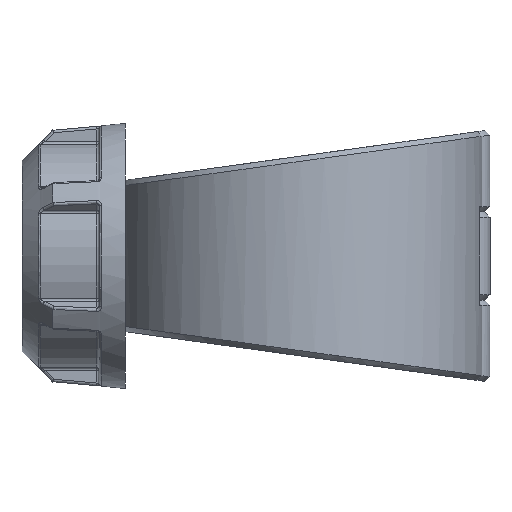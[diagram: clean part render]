
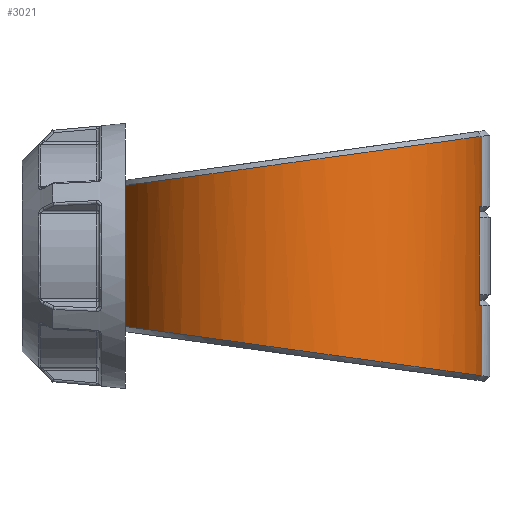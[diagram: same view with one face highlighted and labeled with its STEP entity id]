
A CAD part, left-side view. The second image highlights one B-rep face of the part: STEP entity #3021.
In plain terms, the highlighted cylindrical face has radius 70.5 mm (diameter 141 mm), a partial arc.
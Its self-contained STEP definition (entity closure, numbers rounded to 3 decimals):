
#212=FACE_OUTER_BOUND('',#416,.T.);
#416=EDGE_LOOP('',(#2055,#2056,#2057,#2058,#2059,#2060,#2061,#2062,#2063,
#2064,#2065,#2066));
#623=CIRCLE('',#3251,70.5);
#626=CIRCLE('',#3256,70.5);
#805=B_SPLINE_CURVE_WITH_KNOTS('',3,(#4518,#4519,#4520,#4521),
 .UNSPECIFIED.,.F.,.F.,(4,4),(-0.002,0.),.UNSPECIFIED.);
#806=B_SPLINE_CURVE_WITH_KNOTS('',3,(#4523,#4524,#4525,#4526),
 .UNSPECIFIED.,.F.,.F.,(4,4),(-3.043,-3.043),
 .UNSPECIFIED.);
#807=B_SPLINE_CURVE_WITH_KNOTS('',3,(#4527,#4528,#4529,#4530,#4531,#4532,
#4533,#4534,#4535,#4536),.UNSPECIFIED.,.F.,.F.,(4,1,1,1,1,1,1,4),(0.316,
0.619,1.025,1.431,1.837,2.243,
2.65,3.043),.UNSPECIFIED.);
#808=B_SPLINE_CURVE_WITH_KNOTS('',3,(#4538,#4539,#4540,#4541,#4542,#4543,
#4544,#4545,#4546,#4547),.UNSPECIFIED.,.F.,.F.,(4,1,1,1,1,1,1,4),(-3.043,
-2.65,-2.243,-1.837,-1.431,
-1.025,-0.619,-0.316),.UNSPECIFIED.);
#809=B_SPLINE_CURVE_WITH_KNOTS('',3,(#4549,#4550,#4551,#4552),
 .UNSPECIFIED.,.F.,.F.,(4,4),(3.043,3.043),
 .UNSPECIFIED.);
#810=B_SPLINE_CURVE_WITH_KNOTS('',3,(#4554,#4555,#4556,#4557),
 .UNSPECIFIED.,.F.,.F.,(4,4),(-0.397,-0.395),
 .UNSPECIFIED.);
#972=LINE('',#4394,#1093);
#979=LINE('',#4452,#1100);
#985=LINE('',#4516,#1106);
#986=LINE('',#4558,#1107);
#1093=VECTOR('',#3575,10.);
#1100=VECTOR('',#3592,10.);
#1106=VECTOR('',#3638,10.);
#1107=VECTOR('',#3639,10.);
#1216=VERTEX_POINT('',#4376);
#1217=VERTEX_POINT('',#4393);
#1229=VERTEX_POINT('',#4446);
#1230=VERTEX_POINT('',#4451);
#1236=VERTEX_POINT('',#4472);
#1239=VERTEX_POINT('',#4493);
#1243=VERTEX_POINT('',#4515);
#1244=VERTEX_POINT('',#4517);
#1245=VERTEX_POINT('',#4522);
#1246=VERTEX_POINT('',#4537);
#1247=VERTEX_POINT('',#4548);
#1248=VERTEX_POINT('',#4553);
#1510=EDGE_CURVE('',#1216,#1217,#972,.T.);
#1524=EDGE_CURVE('',#1229,#1230,#979,.T.);
#1537=EDGE_CURVE('',#1236,#1229,#623,.T.);
#1542=EDGE_CURVE('',#1230,#1239,#626,.T.);
#1548=EDGE_CURVE('',#1243,#1236,#985,.T.);
#1549=EDGE_CURVE('',#1244,#1243,#805,.T.);
#1550=EDGE_CURVE('',#1244,#1245,#806,.T.);
#1551=EDGE_CURVE('',#1217,#1245,#807,.T.);
#1552=EDGE_CURVE('',#1246,#1216,#808,.T.);
#1553=EDGE_CURVE('',#1246,#1247,#809,.T.);
#1554=EDGE_CURVE('',#1248,#1247,#810,.T.);
#1555=EDGE_CURVE('',#1239,#1248,#986,.T.);
#2055=ORIENTED_EDGE('',*,*,#1542,.F.);
#2056=ORIENTED_EDGE('',*,*,#1524,.F.);
#2057=ORIENTED_EDGE('',*,*,#1537,.F.);
#2058=ORIENTED_EDGE('',*,*,#1548,.F.);
#2059=ORIENTED_EDGE('',*,*,#1549,.F.);
#2060=ORIENTED_EDGE('',*,*,#1550,.T.);
#2061=ORIENTED_EDGE('',*,*,#1551,.F.);
#2062=ORIENTED_EDGE('',*,*,#1510,.F.);
#2063=ORIENTED_EDGE('',*,*,#1552,.F.);
#2064=ORIENTED_EDGE('',*,*,#1553,.T.);
#2065=ORIENTED_EDGE('',*,*,#1554,.F.);
#2066=ORIENTED_EDGE('',*,*,#1555,.F.);
#2962=CYLINDRICAL_SURFACE('',#3261,70.5);
#3021=ADVANCED_FACE('',(#212),#2962,.T.);
#3251=AXIS2_PLACEMENT_3D('',#4488,#3614,#3615);
#3256=AXIS2_PLACEMENT_3D('',#4502,#3624,#3625);
#3261=AXIS2_PLACEMENT_3D('',#4514,#3636,#3637);
#3575=DIRECTION('',(0.,0.,1.));
#3592=DIRECTION('',(0.,0.,-1.));
#3614=DIRECTION('center_axis',(0.,0.,-1.));
#3615=DIRECTION('ref_axis',(0.312,-0.95,0.));
#3624=DIRECTION('center_axis',(0.,0.,1.));
#3625=DIRECTION('ref_axis',(0.312,-0.95,0.));
#3636=DIRECTION('center_axis',(0.,0.,1.));
#3637=DIRECTION('ref_axis',(-0.312,0.95,0.));
#3638=DIRECTION('',(0.,0.,-1.));
#3639=DIRECTION('',(0.,0.,-1.));
#4376=CARTESIAN_POINT('',(-22.014,66.975,-27.098));
#4393=CARTESIAN_POINT('',(-22.014,66.975,27.098));
#4394=CARTESIAN_POINT('',(-22.014,66.975,0.));
#4446=CARTESIAN_POINT('',(-12.822,-69.324,18.975));
#4451=CARTESIAN_POINT('',(-12.822,-69.324,-18.975));
#4452=CARTESIAN_POINT('',(-12.822,-69.324,0.));
#4472=CARTESIAN_POINT('',(-6.922,-70.159,18.975));
#4488=CARTESIAN_POINT('Origin',(0.,0.,18.975));
#4493=CARTESIAN_POINT('',(-6.922,-70.159,-18.975));
#4502=CARTESIAN_POINT('Origin',(0.,0.,-18.975));
#4514=CARTESIAN_POINT('Origin',(0.,0.,0.));
#4515=CARTESIAN_POINT('',(-6.922,-70.159,46.052));
#4516=CARTESIAN_POINT('',(-6.922,-70.159,0.));
#4517=CARTESIAN_POINT('',(-6.906,-70.161,46.063));
#4518=CARTESIAN_POINT('Ctrl Pts',(-6.906,-70.16,46.063));
#4519=CARTESIAN_POINT('Ctrl Pts',(-6.911,-70.16,46.059));
#4520=CARTESIAN_POINT('Ctrl Pts',(-6.916,-70.159,46.055));
#4521=CARTESIAN_POINT('Ctrl Pts',(-6.922,-70.159,46.052));
#4522=CARTESIAN_POINT('',(-6.922,-70.159,46.063));
#4523=CARTESIAN_POINT('Ctrl Pts',(-6.906,-70.161,46.063));
#4524=CARTESIAN_POINT('Ctrl Pts',(-6.912,-70.16,46.063));
#4525=CARTESIAN_POINT('Ctrl Pts',(-6.917,-70.16,46.063));
#4526=CARTESIAN_POINT('Ctrl Pts',(-6.922,-70.159,46.063));
#4527=CARTESIAN_POINT('Ctrl Pts',(-22.013,66.972,27.099));
#4528=CARTESIAN_POINT('Ctrl Pts',(-28.791,64.74,27.406));
#4529=CARTESIAN_POINT('Ctrl Pts',(-43.875,57.107,28.458));
#4530=CARTESIAN_POINT('Ctrl Pts',(-62.08,37.41,31.174));
#4531=CARTESIAN_POINT('Ctrl Pts',(-71.8,9.802,34.986));
#4532=CARTESIAN_POINT('Ctrl Pts',(-69.835,-19.355,39.019));
#4533=CARTESIAN_POINT('Ctrl Pts',(-56.53,-45.322,42.616));
#4534=CARTESIAN_POINT('Ctrl Pts',(-34.343,-63.73,45.17));
#4535=CARTESIAN_POINT('Ctrl Pts',(-16.083,-69.254,45.937));
#4536=CARTESIAN_POINT('Ctrl Pts',(-6.922,-70.159,46.063));
#4537=CARTESIAN_POINT('',(-6.922,-70.159,-46.063));
#4538=CARTESIAN_POINT('Ctrl Pts',(-6.922,-70.159,-46.063));
#4539=CARTESIAN_POINT('Ctrl Pts',(-16.083,-69.254,-45.937));
#4540=CARTESIAN_POINT('Ctrl Pts',(-34.339,-63.727,-45.17));
#4541=CARTESIAN_POINT('Ctrl Pts',(-56.536,-45.326,-42.617));
#4542=CARTESIAN_POINT('Ctrl Pts',(-69.828,-19.353,-39.019));
#4543=CARTESIAN_POINT('Ctrl Pts',(-71.808,9.802,-34.986));
#4544=CARTESIAN_POINT('Ctrl Pts',(-62.076,37.409,-31.174));
#4545=CARTESIAN_POINT('Ctrl Pts',(-43.875,57.107,-28.458));
#4546=CARTESIAN_POINT('Ctrl Pts',(-28.791,64.74,-27.406));
#4547=CARTESIAN_POINT('Ctrl Pts',(-22.013,66.972,-27.099));
#4548=CARTESIAN_POINT('',(-6.906,-70.161,-46.063));
#4549=CARTESIAN_POINT('Ctrl Pts',(-6.922,-70.159,-46.063));
#4550=CARTESIAN_POINT('Ctrl Pts',(-6.917,-70.16,-46.063));
#4551=CARTESIAN_POINT('Ctrl Pts',(-6.912,-70.16,-46.063));
#4552=CARTESIAN_POINT('Ctrl Pts',(-6.906,-70.161,-46.063));
#4553=CARTESIAN_POINT('',(-6.922,-70.159,-46.052));
#4554=CARTESIAN_POINT('Ctrl Pts',(-6.922,-70.159,-46.052));
#4555=CARTESIAN_POINT('Ctrl Pts',(-6.916,-70.159,-46.055));
#4556=CARTESIAN_POINT('Ctrl Pts',(-6.911,-70.16,-46.059));
#4557=CARTESIAN_POINT('Ctrl Pts',(-6.906,-70.16,-46.063));
#4558=CARTESIAN_POINT('',(-6.922,-70.159,0.));
